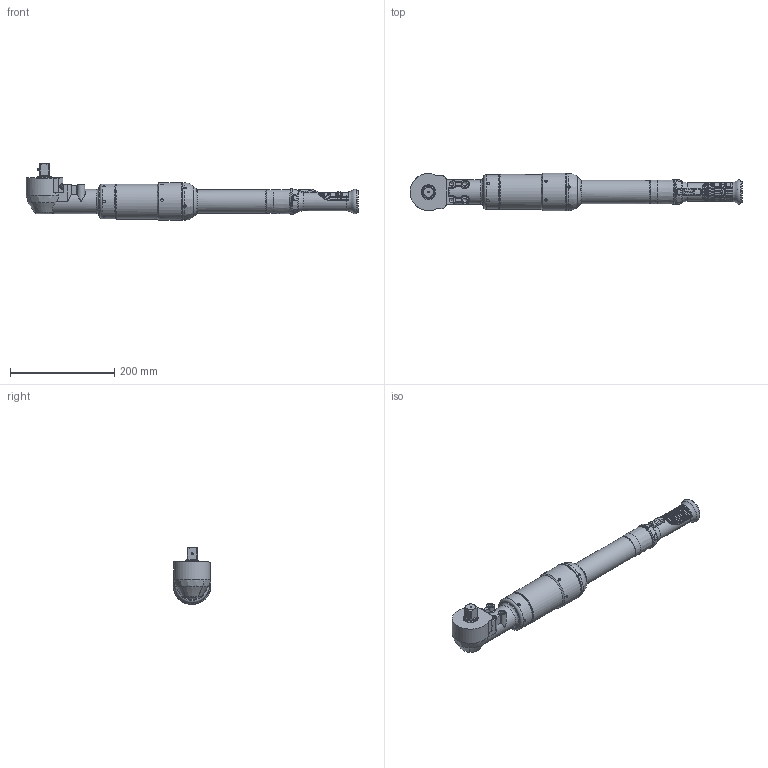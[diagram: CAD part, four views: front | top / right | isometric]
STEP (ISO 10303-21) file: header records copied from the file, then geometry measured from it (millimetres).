
FILE_DESCRIPTION(/* description */ (''),/* implementation_level */ '2;1');
FILE_NAME(/* name */ '10559656_A_SH06_STEP',/* time_stamp */ '2005-11-28T18:18:22+06:00',/* author */ (''),/* organization */ (''),/* preprocessor_version */ 'ST-DEVELOPER v9',/* originating_system */ 'EDS PLM SOLUTIONS - UNIGRAPHICS NX 2.0',/* authorisation */ '');
FILE_SCHEMA (('CONFIG_CONTROL_DESIGN'));
Length unit declared in the file: millimetre
Products named in the file (1): lgb54ACnsll
Bounding box: 637.17 x 72.39 x 108.85 mm (x, y, z)
Volume: 1502226.2 mm3; surface area: 126822.4 mm2
Topology: 1 solids, 1 shells, 501 faces, 1250 edges, 800 vertices
Faces by surface type: cylinder 157, plane 114, cone 106, torus 54, bspline 49, extrusion 14, sphere 7
Full cylindrical faces by diameter (mm): 0.762 x1, 1.984 x1, 3.886 x1, 3.969 x1, 4.978 x18, 6.35 x1, 6.731 x1, 8.666 x4, 9.525 x1, 14.732 x2, 25.019 x1, 28.569 x1, 36.068 x1, 41.758 x1, 42.672 x1, 44.45 x1, 46.482 x1, 48.514 x1, 52.692 x1, 55.88 x1, 60.198 x1, 66.548 x1, 66.675 x1, 67.31 x1, 72.39 x2
Entity records: 20775 total; most frequent: CARTESIAN_POINT 10359, ORIENTED_EDGE 2204, DIRECTION 1863, EDGE_CURVE 1102, AXIS2_PLACEMENT_3D 824, VERTEX_POINT 753, EDGE_LOOP 646, B_SPLINE_CURVE_WITH_KNOTS 524
